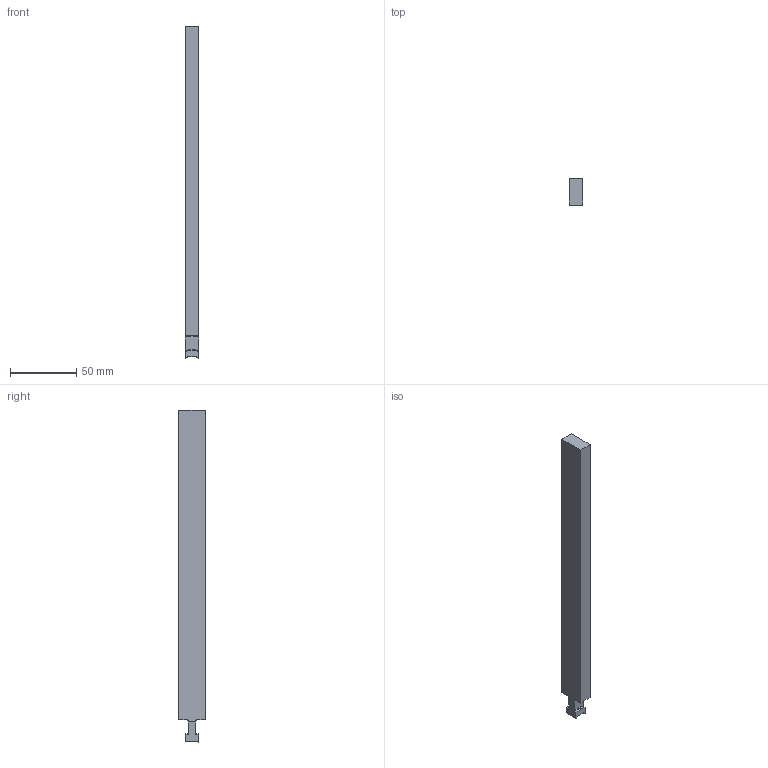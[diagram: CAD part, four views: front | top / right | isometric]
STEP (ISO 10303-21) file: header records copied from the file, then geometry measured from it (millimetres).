
FILE_DESCRIPTION (( 'STEP AP214' ), '1' );
FILE_NAME ('CBMM10X20L250.STEP', '2011-08-03T19:26:04', ( '' ), ( '' ), 'SwSTEP 2.0', 'SolidWorks 2010', '' );
FILE_SCHEMA (( 'AUTOMOTIVE_DESIGN' ));
Length unit declared in the file: millimetre
Products named in the file (1): CBMM10X20L250
Bounding box: 10.25 x 20.25 x 251.16 mm (x, y, z)
Volume: 49784.2 mm3; surface area: 15350.3 mm2
Topology: 1 solids, 1 shells, 37 faces, 101 edges, 66 vertices
Faces by surface type: plane 13, torus 12, cylinder 12
Entity records: 1273 total; most frequent: CARTESIAN_POINT 293, ORIENTED_EDGE 202, DIRECTION 201, EDGE_CURVE 101, AXIS2_PLACEMENT_3D 78, VERTEX_POINT 66, VECTOR 45, LINE 45
